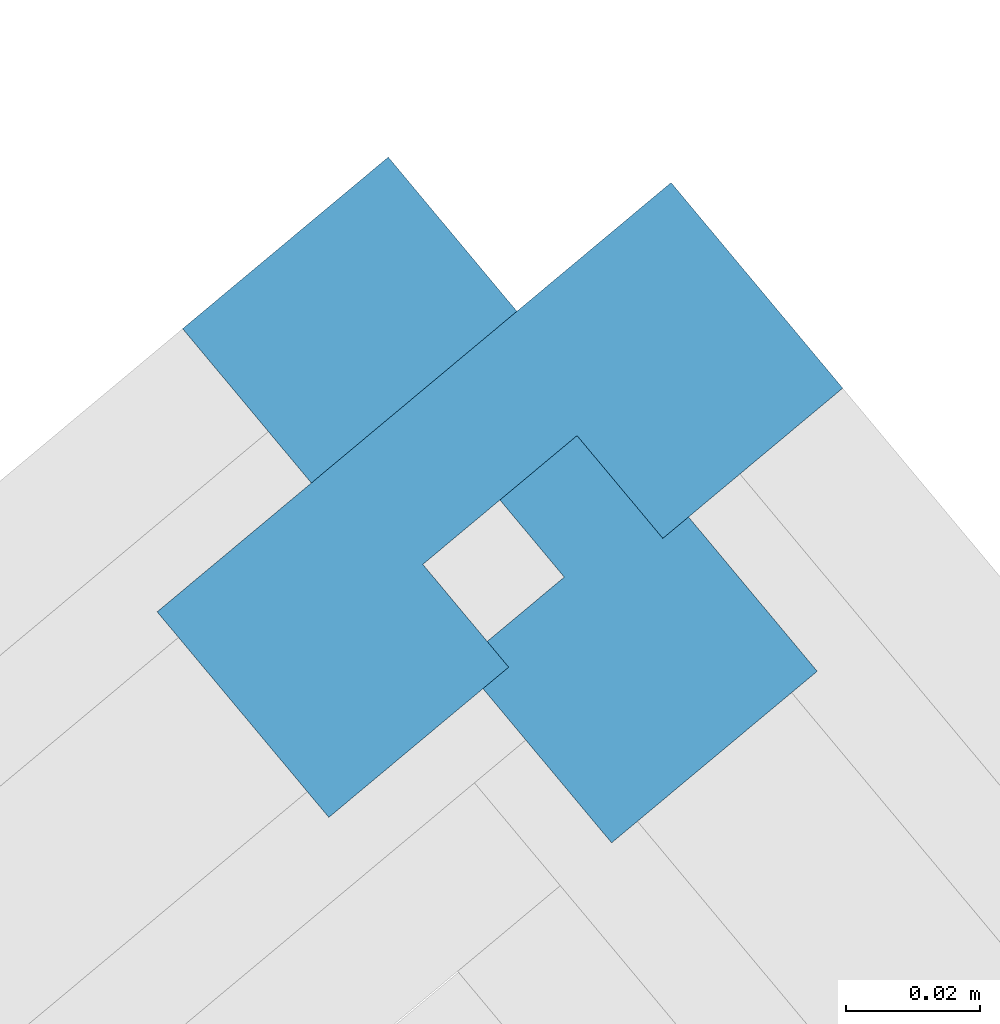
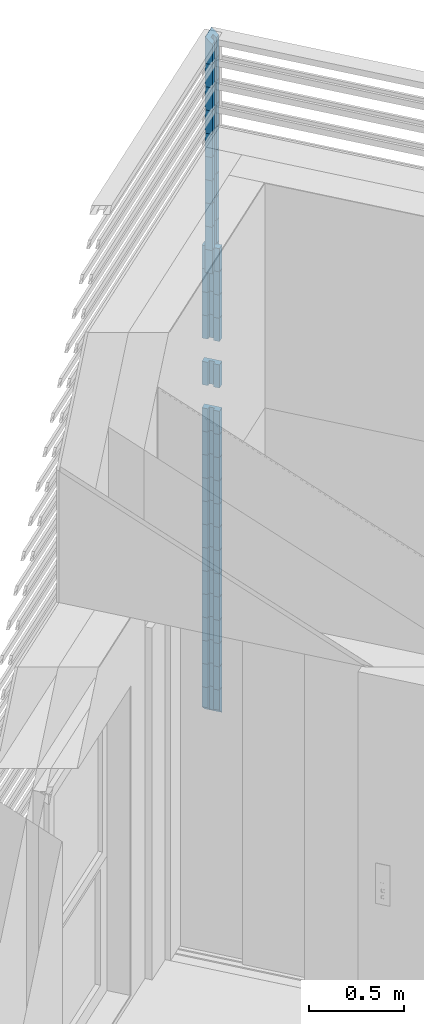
# One storey, part 43 of 47: 28 building element parts, 2 elements without a shape of their own.
"""IFC4 building model written with IfcOpenShell, lengths in metres."""

from ifc_helpers import new_model, entity, si_unit, converted_unit, derived_unit, direction, frame, origin_with_axes, place, context, subcontext, project, spatial, polygons, material, type_object, element, aggregate, save


model = new_model("IFC4")

# Units and contexts
model_context = context("Model", 3, precision=1e-05, world=origin_with_axes(), true_north=direction((0.0, 1.0)))
body_context = subcontext(model_context, "Body", "Model", "MODEL_VIEW")
ifc_project = project(units=[si_unit("LENGTHUNIT", "METRE"), si_unit("AREAUNIT", "SQUARE_METRE"), si_unit("VOLUMEUNIT", "CUBIC_METRE"), converted_unit("PLANEANGLEUNIT", "DEGREE", entity("IfcPlaneAngleMeasure", 0.0174532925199), si_unit("PLANEANGLEUNIT", "RADIAN"), dimensions=[0, 0, 0, 0, 0, 0, 0]), converted_unit("TIMEUNIT", "Year", entity("IfcTimeMeasure", 31556926.0), si_unit("TIMEUNIT", "SECOND"), dimensions=[0, 0, 1, 0, 0, 0, 0]), si_unit("MASSUNIT", "GRAM", prefix="KILO"), si_unit("THERMODYNAMICTEMPERATUREUNIT", "DEGREE_CELSIUS"), si_unit("LUMINOUSINTENSITYUNIT", "LUMEN"), si_unit("ENERGYUNIT", "JOULE", prefix="MEGA"), derived_unit("THERMALCONDUCTANCEUNIT", [(si_unit("POWERUNIT", "WATT"), 1), (si_unit("LENGTHUNIT", "METRE"), -1), (si_unit("THERMODYNAMICTEMPERATUREUNIT", "KELVIN"), -1)]), derived_unit("SPECIFICHEATCAPACITYUNIT", [(si_unit("ENERGYUNIT", "JOULE"), 1), (si_unit("MASSUNIT", "GRAM", prefix="KILO"), -1), (si_unit("THERMODYNAMICTEMPERATUREUNIT", "KELVIN"), -1)]), derived_unit("MASSDENSITYUNIT", [(si_unit("MASSUNIT", "GRAM", prefix="KILO"), 1), (si_unit("VOLUMEUNIT", "CUBIC_METRE"), -1)])], contexts=[model_context])

# Site, building, storey
site_placement = place(None, frame((-0.00153261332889, -0.00661245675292, 0.0), z_axis=(0.0, 0.0, 1.0), x_axis=(1.0, 0.0, 0.0)))
site = spatial("IfcSite", under=ifc_project, at=site_placement, Name="Site", CompositionType="ELEMENT")
building_placement = place(site_placement, origin_with_axes())
building = spatial("IfcBuilding", under=site, at=building_placement, Name="Building", CompositionType="ELEMENT")
storey_placement = place(building_placement, frame((0.0, 0.0, 8.66), z_axis=(0.0, 0.0, 1.0), x_axis=(1.0, 0.0, 0.0)))
storey = spatial("IfcBuildingStorey", under=building, at=storey_placement, Name="DG2", CompositionType="ELEMENT", Elevation=8.66)

# Curtain wall, building element parts
curtain_wall_type = type_object("IfcCurtainWallType", Name="Fassadentyp", PredefinedType="NOTDEFINED")
curtain_wall_1_placement = place(storey_placement, frame((3.22758193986, 25.8519152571, 0.32), z_axis=(0.0, 0.0, 1.0), x_axis=(1.0, 0.0, 0.0)))
curtain_wall_1 = element("IfcCurtainWall", 1, at=curtain_wall_1_placement, inside=storey, type_object=curtain_wall_type, Name="Fassade-001", PredefinedType="NOTDEFINED")
ifc_material = material(Name="Blech")
building_element_part_1_placement = place(curtain_wall_1_placement, origin_with_axes())
building_element_part_1 = element("IfcBuildingElementPart", 2, at=building_element_part_1_placement, material=ifc_material, Name="Blech", PredefinedType="NOTDEFINED", context=body_context, shape_type="Tessellation", body=[
    polygons([(-1.57788459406, 1.86580520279, 3.0), (-1.55485923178, 1.88503623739, 3.0), (-1.54203854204, 1.86968599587, 3.0), (-1.51517561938, 1.8921222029, 3.0), (-1.54081699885, 1.92282268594, 3.0), (-1.61756820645, 1.85871923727, 3.0), (-1.59192682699, 1.82801875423, 3.0), (-1.56506390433, 1.85045496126, 3.0), (-1.57788459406, 1.86580520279, 2.85), (-1.55485923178, 1.88503623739, 2.85), (-1.54203854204, 1.86968599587, 2.85), (-1.51517561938, 1.8921222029, 2.85), (-1.54081699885, 1.92282268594, 2.85), (-1.61756820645, 1.85871923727, 2.85), (-1.59192682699, 1.82801875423, 2.85), (-1.56506390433, 1.85045496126, 2.85)], [[[1, 2, 3, 4, 5, 6, 7, 8]], [[2, 1, 9, 10]], [[11, 3, 2, 10]], [[3, 11, 12, 4]], [[13, 5, 4, 12]], [[14, 6, 5, 13]], [[15, 7, 6, 14]], [[16, 8, 7, 15]], [[1, 8, 16, 9]], [[9, 16, 15, 14, 13, 12, 11, 10]]], closed=True),
])
building_element_part_2_placement = place(curtain_wall_1_placement, origin_with_axes())
building_element_part_2 = element("IfcBuildingElementPart", 3, at=building_element_part_2_placement, material=ifc_material, Name="Blech", PredefinedType="NOTDEFINED", context=body_context, shape_type="Tessellation", body=[
    polygons([(-1.57788459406, 1.86580520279, 3.15), (-1.55485923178, 1.88503623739, 3.15), (-1.54203854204, 1.86968599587, 3.15), (-1.51517561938, 1.8921222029, 3.15), (-1.54081699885, 1.92282268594, 3.15), (-1.61756820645, 1.85871923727, 3.15), (-1.59192682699, 1.82801875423, 3.15), (-1.56506390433, 1.85045496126, 3.15), (-1.57788459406, 1.86580520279, 3.0), (-1.55485923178, 1.88503623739, 3.0), (-1.54203854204, 1.86968599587, 3.0), (-1.51517561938, 1.8921222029, 3.0), (-1.54081699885, 1.92282268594, 3.0), (-1.61756820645, 1.85871923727, 3.0), (-1.59192682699, 1.82801875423, 3.0), (-1.56506390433, 1.85045496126, 3.0)], [[[1, 2, 3, 4, 5, 6, 7, 8]], [[2, 1, 9, 10]], [[11, 3, 2, 10]], [[3, 11, 12, 4]], [[13, 5, 4, 12]], [[14, 6, 5, 13]], [[15, 7, 6, 14]], [[16, 8, 7, 15]], [[1, 8, 16, 9]], [[9, 16, 15, 14, 13, 12, 11, 10]]], closed=True),
])
building_element_part_3_placement = place(curtain_wall_1_placement, origin_with_axes())
building_element_part_3 = element("IfcBuildingElementPart", 4, at=building_element_part_3_placement, material=ifc_material, Name="Blech", PredefinedType="NOTDEFINED", context=body_context, shape_type="Tessellation", body=[
    polygons([(-1.57788459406, 1.86580520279, 3.3), (-1.55485923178, 1.88503623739, 3.3), (-1.54203854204, 1.86968599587, 3.3), (-1.51517561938, 1.8921222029, 3.3), (-1.54081699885, 1.92282268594, 3.3), (-1.61756820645, 1.85871923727, 3.3), (-1.59192682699, 1.82801875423, 3.3), (-1.56506390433, 1.85045496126, 3.3), (-1.57788459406, 1.86580520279, 3.15), (-1.55485923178, 1.88503623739, 3.15), (-1.54203854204, 1.86968599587, 3.15), (-1.51517561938, 1.8921222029, 3.15), (-1.54081699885, 1.92282268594, 3.15), (-1.61756820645, 1.85871923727, 3.15), (-1.59192682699, 1.82801875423, 3.15), (-1.56506390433, 1.85045496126, 3.15)], [[[1, 2, 3, 4, 5, 6, 7, 8]], [[2, 1, 9, 10]], [[11, 3, 2, 10]], [[3, 11, 12, 4]], [[13, 5, 4, 12]], [[14, 6, 5, 13]], [[15, 7, 6, 14]], [[16, 8, 7, 15]], [[1, 8, 16, 9]], [[9, 16, 15, 14, 13, 12, 11, 10]]], closed=True),
])
building_element_part_4_placement = place(curtain_wall_1_placement, origin_with_axes())
building_element_part_4 = element("IfcBuildingElementPart", 5, at=building_element_part_4_placement, material=ifc_material, Name="Blech", PredefinedType="NOTDEFINED", context=body_context, shape_type="Tessellation", body=[
    polygons([(-1.57788459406, 1.86580520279, 3.45), (-1.55485923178, 1.88503623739, 3.45), (-1.54203854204, 1.86968599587, 3.45), (-1.51517561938, 1.8921222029, 3.45), (-1.54081699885, 1.92282268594, 3.45), (-1.61756820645, 1.85871923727, 3.45), (-1.59192682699, 1.82801875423, 3.45), (-1.56506390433, 1.85045496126, 3.45), (-1.57788459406, 1.86580520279, 3.3), (-1.55485923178, 1.88503623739, 3.3), (-1.54203854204, 1.86968599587, 3.3), (-1.51517561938, 1.8921222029, 3.3), (-1.54081699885, 1.92282268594, 3.3), (-1.61756820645, 1.85871923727, 3.3), (-1.59192682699, 1.82801875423, 3.3), (-1.56506390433, 1.85045496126, 3.3)], [[[1, 2, 3, 4, 5, 6, 7, 8]], [[2, 1, 9, 10]], [[11, 3, 2, 10]], [[3, 11, 12, 4]], [[13, 5, 4, 12]], [[14, 6, 5, 13]], [[15, 7, 6, 14]], [[16, 8, 7, 15]], [[1, 8, 16, 9]], [[9, 16, 15, 14, 13, 12, 11, 10]]], closed=True),
])
building_element_part_5_placement = place(curtain_wall_1_placement, origin_with_axes())
building_element_part_5 = element("IfcBuildingElementPart", 6, at=building_element_part_5_placement, material=ifc_material, Name="Blech", PredefinedType="NOTDEFINED", context=body_context, shape_type="Tessellation", body=[
    polygons([(-1.57788459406, 1.86580520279, 3.6), (-1.55485923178, 1.88503623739, 3.6), (-1.54203854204, 1.86968599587, 3.6), (-1.51517561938, 1.8921222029, 3.6), (-1.54081699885, 1.92282268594, 3.6), (-1.61756820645, 1.85871923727, 3.6), (-1.59192682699, 1.82801875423, 3.6), (-1.56506390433, 1.85045496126, 3.6), (-1.57788459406, 1.86580520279, 3.45), (-1.55485923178, 1.88503623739, 3.45), (-1.54203854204, 1.86968599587, 3.45), (-1.51517561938, 1.8921222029, 3.45), (-1.54081699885, 1.92282268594, 3.45), (-1.61756820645, 1.85871923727, 3.45), (-1.59192682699, 1.82801875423, 3.45), (-1.56506390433, 1.85045496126, 3.45)], [[[1, 2, 3, 4, 5, 6, 7, 8]], [[2, 1, 9, 10]], [[11, 3, 2, 10]], [[3, 11, 12, 4]], [[13, 5, 4, 12]], [[14, 6, 5, 13]], [[15, 7, 6, 14]], [[16, 8, 7, 15]], [[1, 8, 16, 9]], [[9, 16, 15, 14, 13, 12, 11, 10]]], closed=True),
])
building_element_part_6_placement = place(curtain_wall_1_placement, origin_with_axes())
building_element_part_6 = element("IfcBuildingElementPart", 7, at=building_element_part_6_placement, material=ifc_material, Name="Blech", PredefinedType="NOTDEFINED", context=body_context, shape_type="Tessellation", body=[
    polygons([(-1.57788459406, 1.86580520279, 3.75), (-1.55485923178, 1.88503623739, 3.75), (-1.54203854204, 1.86968599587, 3.75), (-1.51517561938, 1.8921222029, 3.75), (-1.54081699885, 1.92282268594, 3.75), (-1.61756820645, 1.85871923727, 3.75), (-1.59192682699, 1.82801875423, 3.75), (-1.56506390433, 1.85045496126, 3.75), (-1.57788459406, 1.86580520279, 3.6), (-1.55485923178, 1.88503623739, 3.6), (-1.54203854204, 1.86968599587, 3.6), (-1.51517561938, 1.8921222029, 3.6), (-1.54081699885, 1.92282268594, 3.6), (-1.61756820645, 1.85871923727, 3.6), (-1.59192682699, 1.82801875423, 3.6), (-1.56506390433, 1.85045496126, 3.6)], [[[1, 2, 3, 4, 5, 6, 7, 8]], [[2, 1, 9, 10]], [[11, 3, 2, 10]], [[3, 11, 12, 4]], [[13, 5, 4, 12]], [[14, 6, 5, 13]], [[15, 7, 6, 14]], [[16, 8, 7, 15]], [[1, 8, 16, 9]], [[9, 16, 15, 14, 13, 12, 11, 10]]], closed=True),
])
building_element_part_7_placement = place(curtain_wall_1_placement, origin_with_axes())
building_element_part_7 = element("IfcBuildingElementPart", 8, at=building_element_part_7_placement, material=ifc_material, Name="Blech", PredefinedType="NOTDEFINED", context=body_context, shape_type="Tessellation", body=[
    polygons([(-1.57788459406, 1.86580520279, 3.9), (-1.55485923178, 1.88503623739, 3.9), (-1.54203854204, 1.86968599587, 3.9), (-1.51517561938, 1.8921222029, 3.9), (-1.54081699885, 1.92282268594, 3.9), (-1.61756820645, 1.85871923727, 3.9), (-1.59192682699, 1.82801875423, 3.9), (-1.56506390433, 1.85045496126, 3.9), (-1.57788459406, 1.86580520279, 3.75), (-1.55485923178, 1.88503623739, 3.75), (-1.54203854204, 1.86968599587, 3.75), (-1.51517561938, 1.8921222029, 3.75), (-1.54081699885, 1.92282268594, 3.75), (-1.61756820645, 1.85871923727, 3.75), (-1.59192682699, 1.82801875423, 3.75), (-1.56506390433, 1.85045496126, 3.75)], [[[1, 2, 3, 4, 5, 6, 7, 8]], [[2, 1, 9, 10]], [[11, 3, 2, 10]], [[3, 11, 12, 4]], [[13, 5, 4, 12]], [[14, 6, 5, 13]], [[15, 7, 6, 14]], [[16, 8, 7, 15]], [[1, 8, 16, 9]], [[9, 16, 15, 14, 13, 12, 11, 10]]], closed=True),
])
building_element_part_8_placement = place(curtain_wall_1_placement, origin_with_axes())
building_element_part_8 = element("IfcBuildingElementPart", 9, at=building_element_part_8_placement, material=ifc_material, Name="Blech", PredefinedType="NOTDEFINED", context=body_context, shape_type="Tessellation", body=[
    polygons([(-1.57788459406, 1.86580520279, 4.05), (-1.55485923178, 1.88503623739, 4.05), (-1.54203854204, 1.86968599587, 4.05), (-1.51517561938, 1.8921222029, 4.05), (-1.54081699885, 1.92282268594, 4.05), (-1.61756820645, 1.85871923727, 4.05), (-1.59192682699, 1.82801875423, 4.05), (-1.56506390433, 1.85045496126, 4.05), (-1.57788459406, 1.86580520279, 3.9), (-1.55485923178, 1.88503623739, 3.9), (-1.54203854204, 1.86968599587, 3.9), (-1.51517561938, 1.8921222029, 3.9), (-1.54081699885, 1.92282268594, 3.9), (-1.61756820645, 1.85871923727, 3.9), (-1.59192682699, 1.82801875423, 3.9), (-1.56506390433, 1.85045496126, 3.9)], [[[1, 2, 3, 4, 5, 6, 7, 8]], [[2, 1, 9, 10]], [[11, 3, 2, 10]], [[3, 11, 12, 4]], [[13, 5, 4, 12]], [[14, 6, 5, 13]], [[15, 7, 6, 14]], [[16, 8, 7, 15]], [[1, 8, 16, 9]], [[9, 16, 15, 14, 13, 12, 11, 10]]], closed=True),
])
building_element_part_9_placement = place(curtain_wall_1_placement, origin_with_axes())
building_element_part_9 = element("IfcBuildingElementPart", 10, at=building_element_part_9_placement, material=ifc_material, Name="Blech", PredefinedType="NOTDEFINED", context=body_context, shape_type="Tessellation", body=[
    polygons([(-1.57788459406, 1.86580520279, 4.2), (-1.55485923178, 1.88503623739, 4.2), (-1.54203854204, 1.86968599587, 4.2), (-1.51517561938, 1.8921222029, 4.2), (-1.54081699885, 1.92282268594, 4.2), (-1.61756820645, 1.85871923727, 4.2), (-1.59192682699, 1.82801875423, 4.2), (-1.56506390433, 1.85045496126, 4.2), (-1.57788459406, 1.86580520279, 4.05), (-1.55485923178, 1.88503623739, 4.05), (-1.54203854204, 1.86968599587, 4.05), (-1.51517561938, 1.8921222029, 4.05), (-1.54081699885, 1.92282268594, 4.05), (-1.61756820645, 1.85871923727, 4.05), (-1.59192682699, 1.82801875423, 4.05), (-1.56506390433, 1.85045496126, 4.05)], [[[1, 2, 3, 4, 5, 6, 7, 8]], [[2, 1, 9, 10]], [[11, 3, 2, 10]], [[3, 11, 12, 4]], [[13, 5, 4, 12]], [[14, 6, 5, 13]], [[15, 7, 6, 14]], [[16, 8, 7, 15]], [[1, 8, 16, 9]], [[9, 16, 15, 14, 13, 12, 11, 10]]], closed=True),
])
building_element_part_10_placement = place(curtain_wall_1_placement, origin_with_axes())
building_element_part_10 = element("IfcBuildingElementPart", 11, at=building_element_part_10_placement, material=ifc_material, Name="Blech", PredefinedType="NOTDEFINED", context=body_context, shape_type="Tessellation", body=[
    polygons([(-1.57788459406, 1.86580520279, 4.35000006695), (-1.55485923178, 1.88503623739, 4.35000006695), (-1.54203854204, 1.86968599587, 4.33000006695), (-1.51517561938, 1.8921222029, 4.33000006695), (-1.54081699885, 1.92282268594, 4.37000006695), (-1.61756820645, 1.85871923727, 4.37000006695), (-1.59192682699, 1.82801875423, 4.33000006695), (-1.56506390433, 1.85045496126, 4.33000006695), (-1.57788459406, 1.86580520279, 4.2), (-1.55485923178, 1.88503623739, 4.2), (-1.54203854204, 1.86968599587, 4.2), (-1.51517561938, 1.8921222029, 4.2), (-1.54081699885, 1.92282268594, 4.2), (-1.61756820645, 1.85871923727, 4.2), (-1.59192682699, 1.82801875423, 4.2), (-1.56506390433, 1.85045496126, 4.2)], [[[1, 2, 3, 4, 5, 6, 7, 8]], [[2, 1, 9, 10]], [[11, 3, 2, 10]], [[3, 11, 12, 4]], [[13, 5, 4, 12]], [[14, 6, 5, 13]], [[15, 7, 6, 14]], [[16, 8, 7, 15]], [[1, 8, 16, 9]], [[9, 16, 15, 14, 13, 12, 11, 10]]], closed=True),
])
aggregate(curtain_wall_1, [building_element_part_1, building_element_part_2, building_element_part_3, building_element_part_4, building_element_part_5, building_element_part_6, building_element_part_7, building_element_part_8, building_element_part_9, building_element_part_10])

curtain_wall_2_placement = place(storey_placement, frame((-2.95253507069, 23.8775371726, 0.32), z_axis=(0.0, 0.0, 1.0), x_axis=(1.0, 0.0, 0.0)))
curtain_wall_2 = element("IfcCurtainWall", 12, at=curtain_wall_2_placement, inside=storey, type_object=curtain_wall_type, Name="Fassade-001", PredefinedType="NOTDEFINED")
building_element_part_11_placement = place(curtain_wall_2_placement, origin_with_axes())
building_element_part_11 = element("IfcBuildingElementPart", 13, at=building_element_part_11_placement, material=ifc_material, Name="Blech", PredefinedType="NOTDEFINED", context=body_context, shape_type="Tessellation", body=[
    polygons([(4.62335524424, 3.83828163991, 3.0), (4.60799902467, 3.8254681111, 3.0), (4.63042270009, 3.79859472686, 3.0), (4.66113513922, 3.82422178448, 3.0), (4.59706749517, 3.90100288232, 3.0), (4.56635505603, 3.8753758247, 3.0), (4.58877873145, 3.84850244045, 3.0), (4.60413495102, 3.86131596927, 3.0), (4.62335524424, 3.83828163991, 2.85), (4.60799902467, 3.8254681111, 2.85), (4.63042270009, 3.79859472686, 2.85), (4.66113513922, 3.82422178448, 2.85), (4.59706749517, 3.90100288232, 2.85), (4.56635505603, 3.8753758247, 2.85), (4.58877873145, 3.84850244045, 2.85), (4.60413495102, 3.86131596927, 2.85)], [[[1, 2, 3, 4, 5, 6, 7, 8]], [[1, 9, 10, 2]], [[10, 11, 3, 2]], [[11, 12, 4, 3]], [[12, 13, 5, 4]], [[13, 14, 6, 5]], [[7, 6, 14, 15]], [[15, 16, 8, 7]], [[8, 16, 9, 1]], [[9, 16, 15, 14, 13, 12, 11, 10]]], closed=True),
])
building_element_part_12_placement = place(curtain_wall_2_placement, origin_with_axes())
building_element_part_12 = element("IfcBuildingElementPart", 14, at=building_element_part_12_placement, material=ifc_material, Name="Blech", PredefinedType="NOTDEFINED", context=body_context, shape_type="Tessellation", body=[
    polygons([(4.62335524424, 3.83828163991, 0.15), (4.60799902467, 3.8254681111, 0.15), (4.63042270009, 3.79859472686, 0.15), (4.66113513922, 3.82422178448, 0.15), (4.59706749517, 3.90100288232, 0.15), (4.56635505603, 3.8753758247, 0.15), (4.58877873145, 3.84850244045, 0.15), (4.60413495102, 3.86131596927, 0.15), (4.62335524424, 3.83828163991, 0.0), (4.60799902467, 3.8254681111, 0.02), (4.63042270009, 3.79859472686, 0.02), (4.66113513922, 3.82422178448, -0.02), (4.59706749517, 3.90100288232, -0.02), (4.56635505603, 3.8753758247, 0.02), (4.58877873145, 3.84850244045, 0.02), (4.60413495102, 3.86131596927, 0.0)], [[[1, 2, 3, 4, 5, 6, 7, 8]], [[1, 9, 10, 2]], [[10, 11, 3, 2]], [[3, 11, 12, 4]], [[4, 12, 13, 5]], [[5, 13, 14, 6]], [[7, 6, 14, 15]], [[15, 16, 8, 7]], [[8, 16, 9, 1]], [[9, 16, 15, 14, 13, 12, 11, 10]]], closed=True),
])
building_element_part_13_placement = place(curtain_wall_2_placement, origin_with_axes())
building_element_part_13 = element("IfcBuildingElementPart", 15, at=building_element_part_13_placement, material=ifc_material, Name="Blech", PredefinedType="NOTDEFINED", context=body_context, shape_type="Tessellation", body=[
    polygons([(4.62335524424, 3.83828163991, 2.25), (4.60799902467, 3.8254681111, 2.25), (4.63042270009, 3.79859472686, 2.25), (4.66113513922, 3.82422178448, 2.25), (4.59706749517, 3.90100288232, 2.25), (4.56635505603, 3.8753758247, 2.25), (4.58877873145, 3.84850244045, 2.25), (4.60413495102, 3.86131596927, 2.25), (4.62335524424, 3.83828163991, 2.1), (4.60799902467, 3.8254681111, 2.1), (4.63042270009, 3.79859472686, 2.1), (4.66113513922, 3.82422178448, 2.1), (4.59706749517, 3.90100288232, 2.1), (4.56635505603, 3.8753758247, 2.1), (4.58877873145, 3.84850244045, 2.1), (4.60413495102, 3.86131596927, 2.1)], [[[1, 2, 3, 4, 5, 6, 7, 8]], [[1, 9, 10, 2]], [[10, 11, 3, 2]], [[11, 12, 4, 3]], [[12, 13, 5, 4]], [[13, 14, 6, 5]], [[7, 6, 14, 15]], [[15, 16, 8, 7]], [[8, 16, 9, 1]], [[9, 16, 15, 14, 13, 12, 11, 10]]], closed=True),
])
building_element_part_14_placement = place(curtain_wall_2_placement, origin_with_axes())
building_element_part_14 = element("IfcBuildingElementPart", 16, at=building_element_part_14_placement, material=ifc_material, Name="Blech", PredefinedType="NOTDEFINED", context=body_context, shape_type="Tessellation", body=[
    polygons([(4.62335524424, 3.83828163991, 0.3), (4.60799902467, 3.8254681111, 0.3), (4.63042270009, 3.79859472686, 0.3), (4.66113513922, 3.82422178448, 0.3), (4.59706749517, 3.90100288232, 0.3), (4.56635505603, 3.8753758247, 0.3), (4.58877873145, 3.84850244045, 0.3), (4.60413495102, 3.86131596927, 0.3), (4.62335524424, 3.83828163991, 0.15), (4.60799902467, 3.8254681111, 0.15), (4.63042270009, 3.79859472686, 0.15), (4.66113513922, 3.82422178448, 0.15), (4.59706749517, 3.90100288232, 0.15), (4.56635505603, 3.8753758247, 0.15), (4.58877873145, 3.84850244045, 0.15), (4.60413495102, 3.86131596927, 0.15)], [[[1, 2, 3, 4, 5, 6, 7, 8]], [[1, 9, 10, 2]], [[10, 11, 3, 2]], [[11, 12, 4, 3]], [[12, 13, 5, 4]], [[13, 14, 6, 5]], [[7, 6, 14, 15]], [[15, 16, 8, 7]], [[8, 16, 9, 1]], [[9, 16, 15, 14, 13, 12, 11, 10]]], closed=True),
])
building_element_part_15_placement = place(curtain_wall_2_placement, origin_with_axes())
building_element_part_15 = element("IfcBuildingElementPart", 17, at=building_element_part_15_placement, material=ifc_material, Name="Blech", PredefinedType="NOTDEFINED", context=body_context, shape_type="Tessellation", body=[
    polygons([(4.62335524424, 3.83828163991, 0.45), (4.60799902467, 3.8254681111, 0.45), (4.63042270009, 3.79859472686, 0.45), (4.66113513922, 3.82422178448, 0.45), (4.59706749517, 3.90100288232, 0.45), (4.56635505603, 3.8753758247, 0.45), (4.58877873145, 3.84850244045, 0.45), (4.60413495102, 3.86131596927, 0.45), (4.62335524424, 3.83828163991, 0.3), (4.60799902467, 3.8254681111, 0.3), (4.63042270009, 3.79859472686, 0.3), (4.66113513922, 3.82422178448, 0.3), (4.59706749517, 3.90100288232, 0.3), (4.56635505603, 3.8753758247, 0.3), (4.58877873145, 3.84850244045, 0.3), (4.60413495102, 3.86131596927, 0.3)], [[[1, 2, 3, 4, 5, 6, 7, 8]], [[1, 9, 10, 2]], [[10, 11, 3, 2]], [[11, 12, 4, 3]], [[12, 13, 5, 4]], [[13, 14, 6, 5]], [[7, 6, 14, 15]], [[15, 16, 8, 7]], [[8, 16, 9, 1]], [[9, 16, 15, 14, 13, 12, 11, 10]]], closed=True),
])
building_element_part_16_placement = place(curtain_wall_2_placement, origin_with_axes())
building_element_part_16 = element("IfcBuildingElementPart", 18, at=building_element_part_16_placement, material=ifc_material, Name="Blech", PredefinedType="NOTDEFINED", context=body_context, shape_type="Tessellation", body=[
    polygons([(4.62335524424, 3.83828163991, 0.6), (4.60799902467, 3.8254681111, 0.6), (4.63042270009, 3.79859472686, 0.6), (4.66113513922, 3.82422178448, 0.6), (4.59706749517, 3.90100288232, 0.6), (4.56635505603, 3.8753758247, 0.6), (4.58877873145, 3.84850244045, 0.6), (4.60413495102, 3.86131596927, 0.6), (4.62335524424, 3.83828163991, 0.45), (4.60799902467, 3.8254681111, 0.45), (4.63042270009, 3.79859472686, 0.45), (4.66113513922, 3.82422178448, 0.45), (4.59706749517, 3.90100288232, 0.45), (4.56635505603, 3.8753758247, 0.45), (4.58877873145, 3.84850244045, 0.45), (4.60413495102, 3.86131596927, 0.45)], [[[1, 2, 3, 4, 5, 6, 7, 8]], [[1, 9, 10, 2]], [[10, 11, 3, 2]], [[11, 12, 4, 3]], [[12, 13, 5, 4]], [[13, 14, 6, 5]], [[7, 6, 14, 15]], [[15, 16, 8, 7]], [[8, 16, 9, 1]], [[9, 16, 15, 14, 13, 12, 11, 10]]], closed=True),
])
building_element_part_17_placement = place(curtain_wall_2_placement, origin_with_axes())
building_element_part_17 = element("IfcBuildingElementPart", 19, at=building_element_part_17_placement, material=ifc_material, Name="Blech", PredefinedType="NOTDEFINED", context=body_context, shape_type="Tessellation", body=[
    polygons([(4.62335524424, 3.83828163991, 0.75), (4.60799902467, 3.8254681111, 0.75), (4.63042270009, 3.79859472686, 0.75), (4.66113513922, 3.82422178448, 0.75), (4.59706749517, 3.90100288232, 0.75), (4.56635505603, 3.8753758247, 0.75), (4.58877873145, 3.84850244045, 0.75), (4.60413495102, 3.86131596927, 0.75), (4.62335524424, 3.83828163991, 0.6), (4.60799902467, 3.8254681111, 0.6), (4.63042270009, 3.79859472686, 0.6), (4.66113513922, 3.82422178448, 0.6), (4.59706749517, 3.90100288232, 0.6), (4.56635505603, 3.8753758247, 0.6), (4.58877873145, 3.84850244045, 0.6), (4.60413495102, 3.86131596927, 0.6)], [[[1, 2, 3, 4, 5, 6, 7, 8]], [[1, 9, 10, 2]], [[10, 11, 3, 2]], [[11, 12, 4, 3]], [[12, 13, 5, 4]], [[13, 14, 6, 5]], [[7, 6, 14, 15]], [[15, 16, 8, 7]], [[8, 16, 9, 1]], [[9, 16, 15, 14, 13, 12, 11, 10]]], closed=True),
])
building_element_part_18_placement = place(curtain_wall_2_placement, origin_with_axes())
building_element_part_18 = element("IfcBuildingElementPart", 20, at=building_element_part_18_placement, material=ifc_material, Name="Blech", PredefinedType="NOTDEFINED", context=body_context, shape_type="Tessellation", body=[
    polygons([(4.62335524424, 3.83828163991, 2.85), (4.60799902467, 3.8254681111, 2.85), (4.63042270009, 3.79859472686, 2.85), (4.66113513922, 3.82422178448, 2.85), (4.59706749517, 3.90100288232, 2.85), (4.56635505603, 3.8753758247, 2.85), (4.58877873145, 3.84850244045, 2.85), (4.60413495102, 3.86131596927, 2.85), (4.62335524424, 3.83828163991, 2.7), (4.60799902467, 3.8254681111, 2.7), (4.63042270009, 3.79859472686, 2.7), (4.66113513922, 3.82422178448, 2.7), (4.59706749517, 3.90100288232, 2.7), (4.56635505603, 3.8753758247, 2.7), (4.58877873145, 3.84850244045, 2.7), (4.60413495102, 3.86131596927, 2.7)], [[[1, 2, 3, 4, 5, 6, 7, 8]], [[1, 9, 10, 2]], [[10, 11, 3, 2]], [[11, 12, 4, 3]], [[12, 13, 5, 4]], [[13, 14, 6, 5]], [[7, 6, 14, 15]], [[15, 16, 8, 7]], [[8, 16, 9, 1]], [[9, 16, 15, 14, 13, 12, 11, 10]]], closed=True),
])
building_element_part_19_placement = place(curtain_wall_2_placement, origin_with_axes())
building_element_part_19 = element("IfcBuildingElementPart", 21, at=building_element_part_19_placement, material=ifc_material, Name="Blech", PredefinedType="NOTDEFINED", context=body_context, shape_type="Tessellation", body=[
    polygons([(4.62335524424, 3.83828163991, 0.9), (4.60799902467, 3.8254681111, 0.9), (4.63042270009, 3.79859472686, 0.9), (4.66113513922, 3.82422178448, 0.9), (4.59706749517, 3.90100288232, 0.9), (4.56635505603, 3.8753758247, 0.9), (4.58877873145, 3.84850244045, 0.9), (4.60413495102, 3.86131596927, 0.9), (4.62335524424, 3.83828163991, 0.75), (4.60799902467, 3.8254681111, 0.75), (4.63042270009, 3.79859472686, 0.75), (4.66113513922, 3.82422178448, 0.75), (4.59706749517, 3.90100288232, 0.75), (4.56635505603, 3.8753758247, 0.75), (4.58877873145, 3.84850244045, 0.75), (4.60413495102, 3.86131596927, 0.75)], [[[1, 2, 3, 4, 5, 6, 7, 8]], [[1, 9, 10, 2]], [[10, 11, 3, 2]], [[11, 12, 4, 3]], [[12, 13, 5, 4]], [[13, 14, 6, 5]], [[7, 6, 14, 15]], [[15, 16, 8, 7]], [[8, 16, 9, 1]], [[9, 16, 15, 14, 13, 12, 11, 10]]], closed=True),
])
building_element_part_20_placement = place(curtain_wall_2_placement, origin_with_axes())
building_element_part_20 = element("IfcBuildingElementPart", 22, at=building_element_part_20_placement, material=ifc_material, Name="Blech", PredefinedType="NOTDEFINED", context=body_context, shape_type="Tessellation", body=[
    polygons([(4.62335524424, 3.83828163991, 1.05), (4.60799902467, 3.8254681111, 1.05), (4.63042270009, 3.79859472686, 1.05), (4.66113513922, 3.82422178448, 1.05), (4.59706749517, 3.90100288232, 1.05), (4.56635505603, 3.8753758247, 1.05), (4.58877873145, 3.84850244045, 1.05), (4.60413495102, 3.86131596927, 1.05), (4.62335524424, 3.83828163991, 0.9), (4.60799902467, 3.8254681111, 0.9), (4.63042270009, 3.79859472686, 0.9), (4.66113513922, 3.82422178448, 0.9), (4.59706749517, 3.90100288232, 0.9), (4.56635505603, 3.8753758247, 0.9), (4.58877873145, 3.84850244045, 0.9), (4.60413495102, 3.86131596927, 0.9)], [[[1, 2, 3, 4, 5, 6, 7, 8]], [[1, 9, 10, 2]], [[10, 11, 3, 2]], [[11, 12, 4, 3]], [[12, 13, 5, 4]], [[13, 14, 6, 5]], [[7, 6, 14, 15]], [[15, 16, 8, 7]], [[8, 16, 9, 1]], [[9, 16, 15, 14, 13, 12, 11, 10]]], closed=True),
])
building_element_part_21_placement = place(curtain_wall_2_placement, origin_with_axes())
building_element_part_21 = element("IfcBuildingElementPart", 23, at=building_element_part_21_placement, material=ifc_material, Name="Blech", PredefinedType="NOTDEFINED", context=body_context, shape_type="Tessellation", body=[
    polygons([(4.62335524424, 3.83828163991, 1.2), (4.60799902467, 3.8254681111, 1.2), (4.63042270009, 3.79859472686, 1.2), (4.66113513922, 3.82422178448, 1.2), (4.59706749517, 3.90100288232, 1.2), (4.56635505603, 3.8753758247, 1.2), (4.58877873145, 3.84850244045, 1.2), (4.60413495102, 3.86131596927, 1.2), (4.62335524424, 3.83828163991, 1.05), (4.60799902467, 3.8254681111, 1.05), (4.63042270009, 3.79859472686, 1.05), (4.66113513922, 3.82422178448, 1.05), (4.59706749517, 3.90100288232, 1.05), (4.56635505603, 3.8753758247, 1.05), (4.58877873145, 3.84850244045, 1.05), (4.60413495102, 3.86131596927, 1.05)], [[[1, 2, 3, 4, 5, 6, 7, 8]], [[1, 9, 10, 2]], [[10, 11, 3, 2]], [[11, 12, 4, 3]], [[12, 13, 5, 4]], [[13, 14, 6, 5]], [[7, 6, 14, 15]], [[15, 16, 8, 7]], [[8, 16, 9, 1]], [[9, 16, 15, 14, 13, 12, 11, 10]]], closed=True),
])
building_element_part_22_placement = place(curtain_wall_2_placement, origin_with_axes())
building_element_part_22 = element("IfcBuildingElementPart", 24, at=building_element_part_22_placement, material=ifc_material, Name="Blech", PredefinedType="NOTDEFINED", context=body_context, shape_type="Tessellation", body=[
    polygons([(4.62335524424, 3.83828163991, 2.7), (4.60799902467, 3.8254681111, 2.7), (4.63042270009, 3.79859472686, 2.7), (4.66113513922, 3.82422178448, 2.7), (4.59706749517, 3.90100288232, 2.7), (4.56635505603, 3.8753758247, 2.7), (4.58877873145, 3.84850244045, 2.7), (4.60413495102, 3.86131596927, 2.7), (4.62335524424, 3.83828163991, 2.55), (4.60799902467, 3.8254681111, 2.55), (4.63042270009, 3.79859472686, 2.55), (4.66113513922, 3.82422178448, 2.55), (4.59706749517, 3.90100288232, 2.55), (4.56635505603, 3.8753758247, 2.55), (4.58877873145, 3.84850244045, 2.55), (4.60413495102, 3.86131596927, 2.55)], [[[1, 2, 3, 4, 5, 6, 7, 8]], [[1, 9, 10, 2]], [[10, 11, 3, 2]], [[11, 12, 4, 3]], [[12, 13, 5, 4]], [[13, 14, 6, 5]], [[7, 6, 14, 15]], [[15, 16, 8, 7]], [[8, 16, 9, 1]], [[9, 16, 15, 14, 13, 12, 11, 10]]], closed=True),
])
building_element_part_23_placement = place(curtain_wall_2_placement, origin_with_axes())
building_element_part_23 = element("IfcBuildingElementPart", 25, at=building_element_part_23_placement, material=ifc_material, Name="Blech", PredefinedType="NOTDEFINED", context=body_context, shape_type="Tessellation", body=[
    polygons([(4.62335524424, 3.83828163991, 1.35), (4.60799902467, 3.8254681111, 1.35), (4.63042270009, 3.79859472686, 1.35), (4.66113513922, 3.82422178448, 1.35), (4.59706749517, 3.90100288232, 1.35), (4.56635505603, 3.8753758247, 1.35), (4.58877873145, 3.84850244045, 1.35), (4.60413495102, 3.86131596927, 1.35), (4.62335524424, 3.83828163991, 1.2), (4.60799902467, 3.8254681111, 1.2), (4.63042270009, 3.79859472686, 1.2), (4.66113513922, 3.82422178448, 1.2), (4.59706749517, 3.90100288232, 1.2), (4.56635505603, 3.8753758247, 1.2), (4.58877873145, 3.84850244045, 1.2), (4.60413495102, 3.86131596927, 1.2)], [[[1, 2, 3, 4, 5, 6, 7, 8]], [[1, 9, 10, 2]], [[10, 11, 3, 2]], [[11, 12, 4, 3]], [[12, 13, 5, 4]], [[13, 14, 6, 5]], [[7, 6, 14, 15]], [[15, 16, 8, 7]], [[8, 16, 9, 1]], [[9, 16, 15, 14, 13, 12, 11, 10]]], closed=True),
])
building_element_part_24_placement = place(curtain_wall_2_placement, origin_with_axes())
building_element_part_24 = element("IfcBuildingElementPart", 26, at=building_element_part_24_placement, material=ifc_material, Name="Blech", PredefinedType="NOTDEFINED", context=body_context, shape_type="Tessellation", body=[
    polygons([(4.62335524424, 3.83828163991, 1.5), (4.60799902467, 3.8254681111, 1.5), (4.63042270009, 3.79859472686, 1.5), (4.66113513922, 3.82422178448, 1.5), (4.59706749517, 3.90100288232, 1.5), (4.56635505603, 3.8753758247, 1.5), (4.58877873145, 3.84850244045, 1.5), (4.60413495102, 3.86131596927, 1.5), (4.62335524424, 3.83828163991, 1.35), (4.60799902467, 3.8254681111, 1.35), (4.63042270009, 3.79859472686, 1.35), (4.66113513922, 3.82422178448, 1.35), (4.59706749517, 3.90100288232, 1.35), (4.56635505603, 3.8753758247, 1.35), (4.58877873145, 3.84850244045, 1.35), (4.60413495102, 3.86131596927, 1.35)], [[[1, 2, 3, 4, 5, 6, 7, 8]], [[1, 9, 10, 2]], [[10, 11, 3, 2]], [[11, 12, 4, 3]], [[12, 13, 5, 4]], [[13, 14, 6, 5]], [[7, 6, 14, 15]], [[15, 16, 8, 7]], [[8, 16, 9, 1]], [[9, 16, 15, 14, 13, 12, 11, 10]]], closed=True),
])
building_element_part_25_placement = place(curtain_wall_2_placement, origin_with_axes())
building_element_part_25 = element("IfcBuildingElementPart", 27, at=building_element_part_25_placement, material=ifc_material, Name="Blech", PredefinedType="NOTDEFINED", context=body_context, shape_type="Tessellation", body=[
    polygons([(4.62335524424, 3.83828163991, 1.65), (4.60799902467, 3.8254681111, 1.65), (4.63042270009, 3.79859472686, 1.65), (4.66113513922, 3.82422178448, 1.65), (4.59706749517, 3.90100288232, 1.65), (4.56635505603, 3.8753758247, 1.65), (4.58877873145, 3.84850244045, 1.65), (4.60413495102, 3.86131596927, 1.65), (4.62335524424, 3.83828163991, 1.5), (4.60799902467, 3.8254681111, 1.5), (4.63042270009, 3.79859472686, 1.5), (4.66113513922, 3.82422178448, 1.5), (4.59706749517, 3.90100288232, 1.5), (4.56635505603, 3.8753758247, 1.5), (4.58877873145, 3.84850244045, 1.5), (4.60413495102, 3.86131596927, 1.5)], [[[1, 2, 3, 4, 5, 6, 7, 8]], [[1, 9, 10, 2]], [[10, 11, 3, 2]], [[11, 12, 4, 3]], [[12, 13, 5, 4]], [[13, 14, 6, 5]], [[7, 6, 14, 15]], [[15, 16, 8, 7]], [[8, 16, 9, 1]], [[9, 16, 15, 14, 13, 12, 11, 10]]], closed=True),
])
building_element_part_26_placement = place(curtain_wall_2_placement, origin_with_axes())
building_element_part_26 = element("IfcBuildingElementPart", 28, at=building_element_part_26_placement, material=ifc_material, Name="Blech", PredefinedType="NOTDEFINED", context=body_context, shape_type="Tessellation", body=[
    polygons([(4.62335524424, 3.83828163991, 1.8), (4.60799902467, 3.8254681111, 1.8), (4.63042270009, 3.79859472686, 1.8), (4.66113513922, 3.82422178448, 1.8), (4.59706749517, 3.90100288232, 1.8), (4.56635505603, 3.8753758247, 1.8), (4.58877873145, 3.84850244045, 1.8), (4.60413495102, 3.86131596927, 1.8), (4.62335524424, 3.83828163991, 1.65), (4.60799902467, 3.8254681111, 1.65), (4.63042270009, 3.79859472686, 1.65), (4.66113513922, 3.82422178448, 1.65), (4.59706749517, 3.90100288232, 1.65), (4.56635505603, 3.8753758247, 1.65), (4.58877873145, 3.84850244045, 1.65), (4.60413495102, 3.86131596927, 1.65)], [[[1, 2, 3, 4, 5, 6, 7, 8]], [[1, 9, 10, 2]], [[10, 11, 3, 2]], [[11, 12, 4, 3]], [[12, 13, 5, 4]], [[13, 14, 6, 5]], [[7, 6, 14, 15]], [[15, 16, 8, 7]], [[8, 16, 9, 1]], [[9, 16, 15, 14, 13, 12, 11, 10]]], closed=True),
])
building_element_part_27_placement = place(curtain_wall_2_placement, origin_with_axes())
building_element_part_27 = element("IfcBuildingElementPart", 29, at=building_element_part_27_placement, material=ifc_material, Name="Blech", PredefinedType="NOTDEFINED", context=body_context, shape_type="Tessellation", body=[
    polygons([(4.62335524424, 3.83828163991, 2.55), (4.60799902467, 3.8254681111, 2.55), (4.63042270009, 3.79859472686, 2.55), (4.66113513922, 3.82422178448, 2.55), (4.59706749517, 3.90100288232, 2.55), (4.56635505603, 3.8753758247, 2.55), (4.58877873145, 3.84850244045, 2.55), (4.60413495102, 3.86131596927, 2.55), (4.62335524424, 3.83828163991, 2.4), (4.60799902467, 3.8254681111, 2.4), (4.63042270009, 3.79859472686, 2.4), (4.66113513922, 3.82422178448, 2.4), (4.59706749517, 3.90100288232, 2.4), (4.56635505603, 3.8753758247, 2.4), (4.58877873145, 3.84850244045, 2.4), (4.60413495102, 3.86131596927, 2.4)], [[[1, 2, 3, 4, 5, 6, 7, 8]], [[1, 9, 10, 2]], [[10, 11, 3, 2]], [[11, 12, 4, 3]], [[12, 13, 5, 4]], [[13, 14, 6, 5]], [[7, 6, 14, 15]], [[15, 16, 8, 7]], [[8, 16, 9, 1]], [[9, 16, 15, 14, 13, 12, 11, 10]]], closed=True),
])
building_element_part_28_placement = place(curtain_wall_2_placement, origin_with_axes())
building_element_part_28 = element("IfcBuildingElementPart", 30, at=building_element_part_28_placement, material=ifc_material, Name="Blech", PredefinedType="NOTDEFINED", context=body_context, shape_type="Tessellation", body=[
    polygons([(4.62335524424, 3.83828163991, 1.95), (4.60799902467, 3.8254681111, 1.95), (4.63042270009, 3.79859472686, 1.95), (4.66113513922, 3.82422178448, 1.95), (4.59706749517, 3.90100288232, 1.95), (4.56635505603, 3.8753758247, 1.95), (4.58877873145, 3.84850244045, 1.95), (4.60413495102, 3.86131596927, 1.95), (4.62335524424, 3.83828163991, 1.8), (4.60799902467, 3.8254681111, 1.8), (4.63042270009, 3.79859472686, 1.8), (4.66113513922, 3.82422178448, 1.8), (4.59706749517, 3.90100288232, 1.8), (4.56635505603, 3.8753758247, 1.8), (4.58877873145, 3.84850244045, 1.8), (4.60413495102, 3.86131596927, 1.8)], [[[1, 2, 3, 4, 5, 6, 7, 8]], [[1, 9, 10, 2]], [[10, 11, 3, 2]], [[11, 12, 4, 3]], [[12, 13, 5, 4]], [[13, 14, 6, 5]], [[7, 6, 14, 15]], [[15, 16, 8, 7]], [[8, 16, 9, 1]], [[9, 16, 15, 14, 13, 12, 11, 10]]], closed=True),
])
aggregate(curtain_wall_2, [building_element_part_11, building_element_part_12, building_element_part_13, building_element_part_14, building_element_part_15, building_element_part_16, building_element_part_17, building_element_part_18, building_element_part_19, building_element_part_20, building_element_part_21, building_element_part_22, building_element_part_23, building_element_part_24, building_element_part_25, building_element_part_26, building_element_part_27, building_element_part_28])

save(model, "model.ifc")
